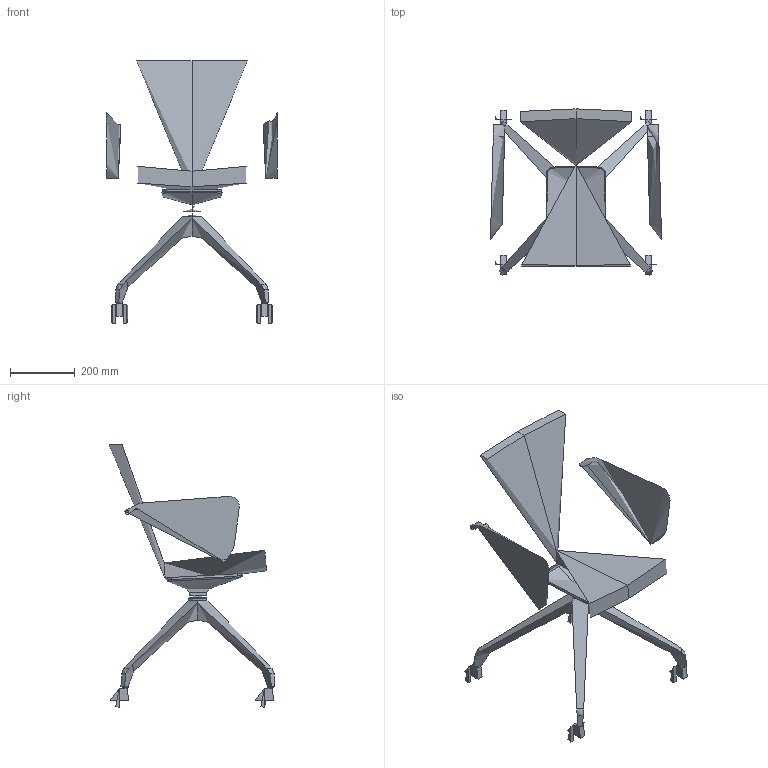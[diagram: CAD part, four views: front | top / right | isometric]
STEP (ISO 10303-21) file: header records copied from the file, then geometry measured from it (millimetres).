
FILE_DESCRIPTION(/* description */ (''),/* implementation_level */ '2;1');
FILE_NAME(/* name */ 'Flexi Light CHL,BR,F95-BL',/* time_stamp */ '2021-04-28T16:11:34+02:00',/* author */ (''),/* organization */ (''),/* preprocessor_version */ 'ST-DEVELOPER v16.5',/* originating_system */ '',/* authorisation */ '');
FILE_SCHEMA (('CONFIG_CONTROL_DESIGN'));
Length unit declared in the file: millimetre
Products named in the file (1): Document
Bounding box: 529.02 x 512.44 x 813.02 mm (x, y, z)
Volume: 16004786.7 mm3; surface area: 1194326.3 mm2
Topology: 3 solids, 27 shells, 234 faces, 551 edges, 332 vertices
Faces by surface type: bspline 110, cylinder 64, plane 60
Entity records: 25173 total; most frequent: CARTESIAN_POINT 21840, ORIENTED_EDGE 988, EDGE_CURVE 530, VERTEX_POINT 330, EDGE_LOOP 247, ADVANCED_FACE 234, FACE_OUTER_BOUND 234, B_SPLINE_CURVE_WITH_KNOTS 188
